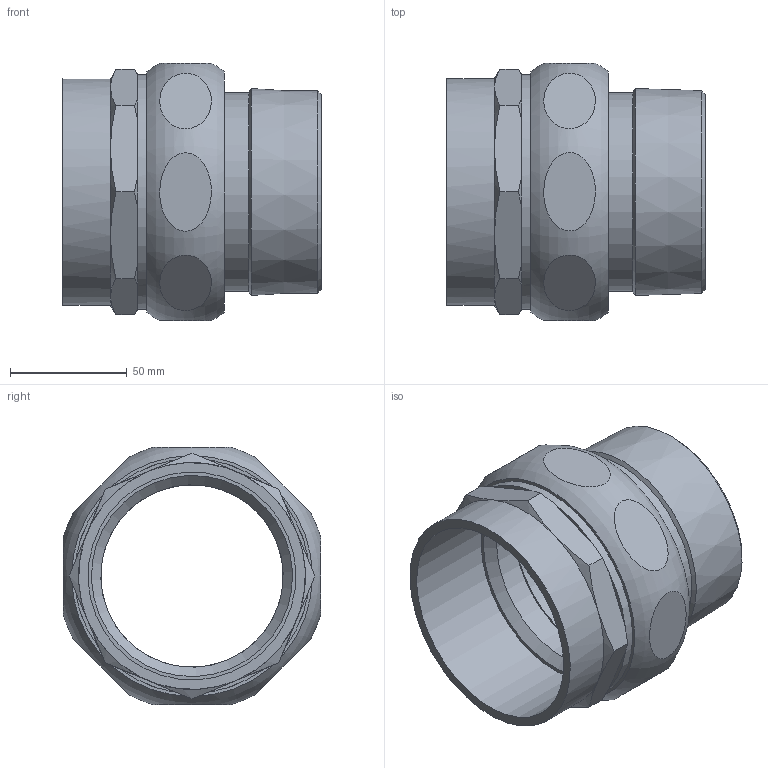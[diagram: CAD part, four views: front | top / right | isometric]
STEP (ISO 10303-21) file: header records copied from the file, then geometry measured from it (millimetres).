
FILE_DESCRIPTION((''),'2;1');
FILE_NAME('C:\Documents and Settings\pajchrowski\Desktop\step\14331893.stp','2009-05-07T07:59:23',('pajchrowski'),(''),'Autodesk Inventor 2009','Autodesk Inventor 2009','');
FILE_SCHEMA(('AUTOMOTIVE_DESIGN { 1 0 10303 214 1 1 1 1 }'));
Length unit declared in the file: millimetre
Products named in the file (4): 14331893; 4374312; 43713312; 437089312
Assembly tree (3 placements, depth 2):
  14331893
    4374312
    43713312
    437089312
Bounding box: 110.5 x 110 x 110 mm (x, y, z)
Volume: 246341.2 mm3; surface area: 96545.5 mm2
Topology: 3 solids, 3 shells, 67 faces, 126 edges, 76 vertices
Faces by surface type: plane 34, cone 22, cylinder 10, torus 1
Full cylindrical faces by diameter (mm): 78 x2, 85 x1, 88.9 x1, 91.5 x1, 93 x1, 96.5 x1, 97 x1, 97.372 x1, 100.33 x1
Entity records: 3193 total; most frequent: CARTESIAN_POINT 1878, DIRECTION 264, ORIENTED_EDGE 212, AXIS2_PLACEMENT_3D 124, EDGE_CURVE 106, EDGE_LOOP 102, VERTEX_POINT 74, FACE_OUTER_BOUND 67
